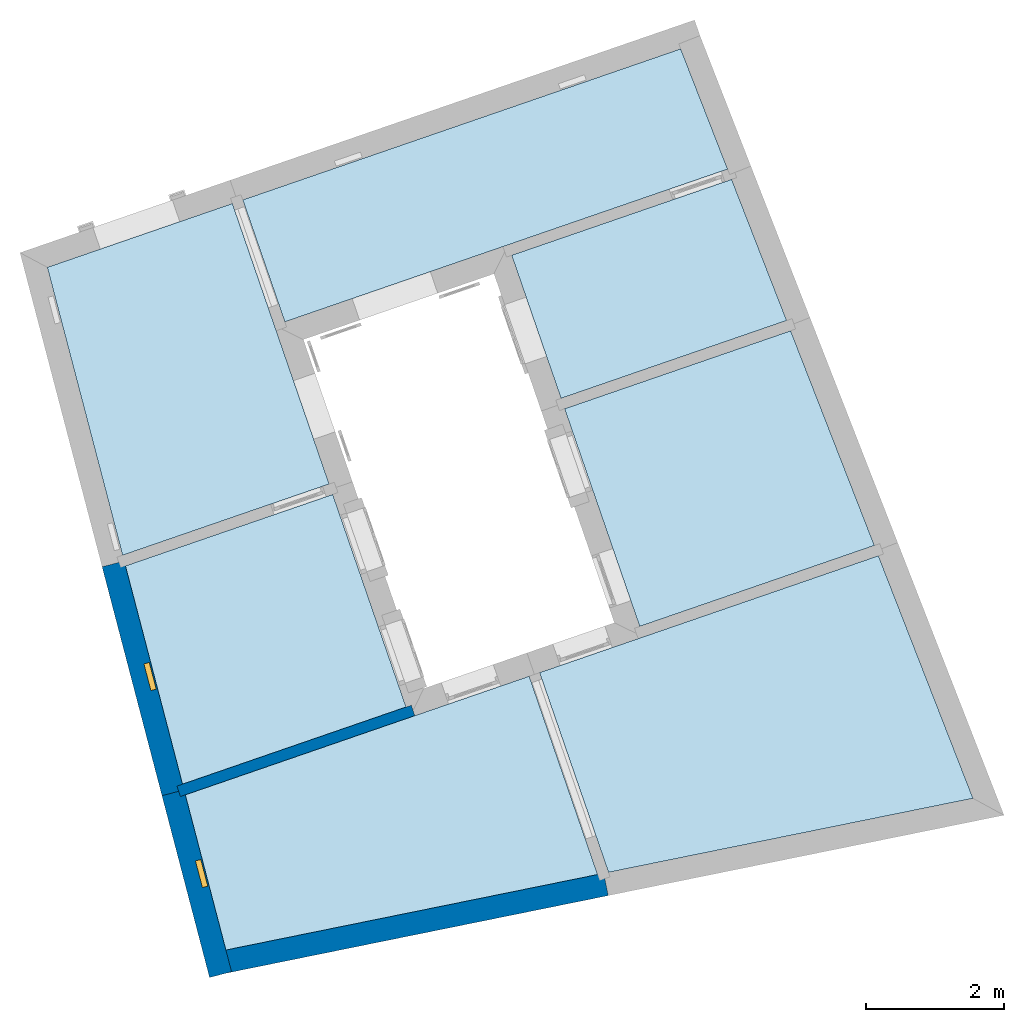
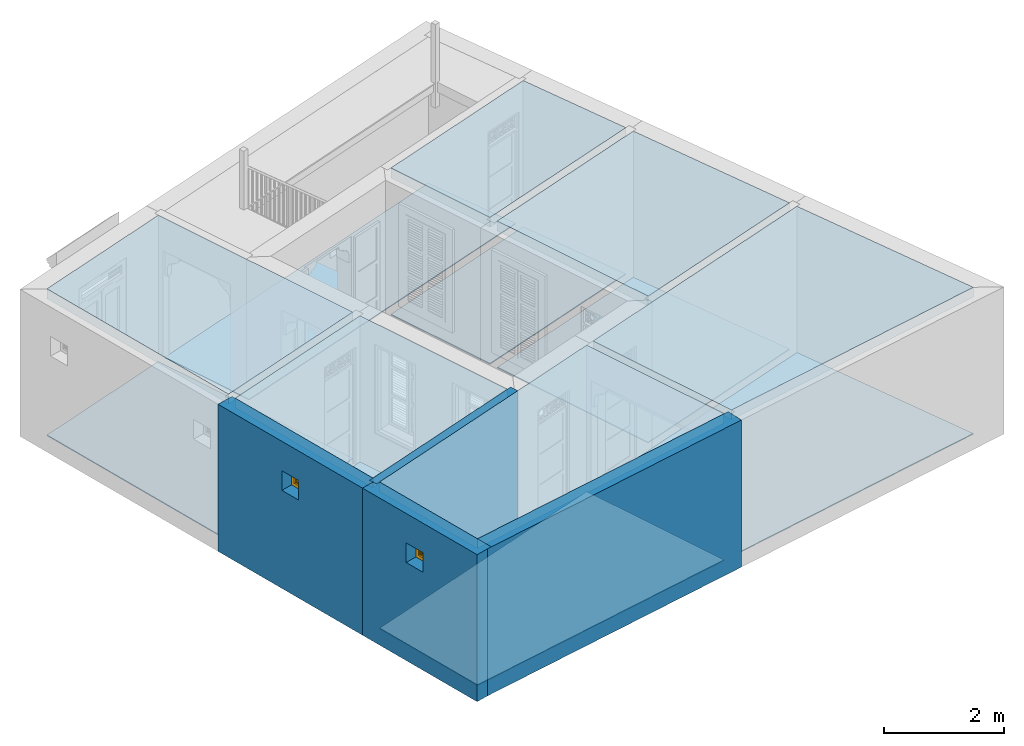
# One storey, part 1 of 16: 13 slabs, 4 walls, 2 windows, 2 openings.
"""IFC4 building model written with IfcOpenShell, lengths in metres."""

from ifc_helpers import new_model, si_unit, frame, origin, origin_with_axes, place, context, subcontext, project, spatial, polyline, outline, extrude, faceted_brep, source, transform, mapped, material, layer, layer_set, layer_usage, type_object, type_shapes, element, fill, save


model = new_model("IFC4")

# Units and contexts
model_context = context("Model", 3, world=origin_with_axes())
body_context = subcontext(model_context, "Body", "Model", "MODEL_VIEW")
ifc_project = project(units=[si_unit("PLANEANGLEUNIT", "RADIAN"), si_unit("MASSUNIT", "GRAM", prefix="KILO"), si_unit("FORCEUNIT", "NEWTON", prefix="KILO"), si_unit("LENGTHUNIT", "METRE"), si_unit("AREAUNIT", "SQUARE_METRE"), si_unit("VOLUMEUNIT", "CUBIC_METRE")], contexts=[model_context, model_context])

# Site, building, storey
site_placement = place(None, origin_with_axes())
site = spatial("IfcSite", under=ifc_project, at=site_placement, Name="Site plot-8", CompositionType="ELEMENT")
building_placement = place(None, origin_with_axes())
building = spatial("IfcBuilding", under=site, at=building_placement, Name="Building plot-8", CompositionType="ELEMENT")
storey_placement = place(None, origin_with_axes())
storey = spatial("IfcBuildingStorey", under=building, at=storey_placement, Name="plot-8 0", CompositionType="ELEMENT", Elevation=0.0)

# Slabs
slab_1_placement = place(storey_placement, frame((-1.56989651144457, 13.7553610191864, 2.8)))
element("IfcSlab", 1, at=slab_1_placement, inside=storey, Name="My Slab", ObjectType="Slab", PredefinedType="FLOOR", context=body_context, shape_type="SweptSolid", body=[
    extrude(outline(polyline([(0.0, 0.0), (-1.37202766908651, 3.5180894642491), (-6.28587327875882, 1.82295310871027), (-5.28659659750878, -1.07374090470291), (0.0, 0.0)])), origin_with_axes(), (0.0, 0.0, 1.0), 0.2),
])
slab_2_placement = place(storey_placement, frame((-1.56989651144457, 13.7553610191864, 0.0)))
element("IfcSlab", 2, at=slab_2_placement, inside=storey, Name="My Slab", ObjectType="Slab", PredefinedType="FLOOR", context=body_context, shape_type="SweptSolid", body=[
    extrude(outline(polyline([(0.0, 0.0), (-1.37202766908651, 3.5180894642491), (-6.28587327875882, 1.82295310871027), (-5.28659659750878, -1.07374090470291), (0.0, 0.0)])), origin_with_axes(), (0.0, 0.0, 1.0), 0.02),
])
slab_3_placement = place(storey_placement, frame((-7.49313553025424, 19.4056365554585, 2.8)))
element("IfcSlab", 3, at=slab_3_placement, inside=storey, Name="My Slab", ObjectType="Slab", PredefinedType="FLOOR", context=body_context, shape_type="SweptSolid", body=[
    extrude(outline(polyline([(0.0, 0.0), (1.08915847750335, -3.15724253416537), (4.4930313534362, -1.98300363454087), (3.27858671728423, 1.13101875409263), (0.0, 0.0)])), origin_with_axes(), (0.0, 0.0, 1.0), 0.2),
])
slab_4_placement = place(storey_placement, frame((-7.49313553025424, 19.4056365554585, 0.0)))
element("IfcSlab", 4, at=slab_4_placement, inside=storey, Name="My Slab", ObjectType="Slab", PredefinedType="FLOOR", context=body_context, shape_type="SweptSolid", body=[
    extrude(outline(polyline([(0.0, 0.0), (1.08915847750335, -3.15724253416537), (4.4930313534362, -1.98300363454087), (3.27858671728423, 1.13101875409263), (0.0, 0.0)])), origin_with_axes(), (0.0, 0.0, 1.0), 0.02),
])
slab_5_placement = place(storey_placement, frame((-8.00702276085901, 15.5261361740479, 2.8)))
element("IfcSlab", 5, at=slab_5_placement, inside=storey, Name="My Slab", ObjectType="Slab", PredefinedType="FLOOR", context=body_context, shape_type="SweptSolid", body=[
    extrude(outline(polyline([(0.0, 0.0), (-4.98802693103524, -1.72072679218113), (-4.39930326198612, -3.97172191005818), (0.992359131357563, -2.87664148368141), (0.0, 0.0)])), origin_with_axes(), (0.0, 0.0, 1.0), 0.2),
])
slab_6_placement = place(storey_placement, frame((-8.00702276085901, 15.5261361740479, 0.0)))
element("IfcSlab", 6, at=slab_6_placement, inside=storey, Name="My Slab", ObjectType="Slab", PredefinedType="FLOOR", context=body_context, shape_type="SweptSolid", body=[
    extrude(outline(polyline([(0.0, 0.0), (-4.98802693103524, -1.72072679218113), (-4.39930326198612, -3.97172191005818), (0.992359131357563, -2.87664148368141), (0.0, 0.0)])), origin_with_axes(), (0.0, 0.0, 1.0), 0.02),
])
slab_7_placement = place(storey_placement, frame((-9.79308074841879, 15.0792500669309, 2.8)))
element("IfcSlab", 7, at=slab_7_placement, inside=storey, Name="My Slab", ObjectType="Slab", PredefinedType="FLOOR", context=body_context, shape_type="SweptSolid", body=[
    extrude(outline(polyline([(0.0, 0.0), (-1.06373839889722, 3.08355504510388), (-4.07033336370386, 2.04636567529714), (-3.24257187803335, -1.11859466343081), (0.0, 0.0)])), origin_with_axes(), (0.0, 0.0, 1.0), 0.2),
])
slab_8_placement = place(storey_placement, frame((-9.79308074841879, 15.0792500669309, 0.0)))
element("IfcSlab", 8, at=slab_8_placement, inside=storey, Name="My Slab", ObjectType="Slab", PredefinedType="FLOOR", context=body_context, shape_type="SweptSolid", body=[
    extrude(outline(polyline([(0.0, 0.0), (-1.06373839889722, 3.08355504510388), (-4.07033336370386, 2.04636567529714), (-3.24257187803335, -1.11859466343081), (0.0, 0.0)])), origin_with_axes(), (0.0, 0.0, 1.0), 0.02),
])
slab_9_placement = place(storey_placement, frame((-12.3125491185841, 22.3826617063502, 2.8)))
element("IfcSlab", 9, at=slab_9_placement, inside=storey, Name="My Slab", ObjectType="Slab", PredefinedType="FLOOR", context=body_context, shape_type="SweptSolid", body=[
    extrude(outline(polyline([(0.0, 0.0), (-2.68365967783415, -0.925785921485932), (-1.59146792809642, -5.10179994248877), (1.4035520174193, -4.06860362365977), (0.0, 0.0)])), origin_with_axes(), (0.0, 0.0, 1.0), 0.2),
])
slab_10_placement = place(storey_placement, frame((-12.3125491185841, 22.3826617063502, 0.0)))
element("IfcSlab", 10, at=slab_10_placement, inside=storey, Name="My Slab", ObjectType="Slab", PredefinedType="FLOOR", context=body_context, shape_type="SweptSolid", body=[
    extrude(outline(polyline([(0.0, 0.0), (-2.68365967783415, -0.925785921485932), (-1.59146792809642, -5.10179994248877), (1.4035520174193, -4.06860362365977), (0.0, 0.0)])), origin_with_axes(), (0.0, 0.0, 1.0), 0.02),
])
slab_11_placement = place(storey_placement, frame((-5.12902065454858, 22.8815014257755, 0.0)))
element("IfcSlab", 11, at=slab_11_placement, inside=storey, Name="My Slab", ObjectType="Slab", PredefinedType="FLOOR", context=body_context, shape_type="SweptSolid", body=[
    extrude(outline(polyline([(0.0, 0.0), (-0.68036693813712, 1.7445652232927), (-7.03227549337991, -0.446661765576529), (-6.4220974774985, -2.2154401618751), (0.0, 0.0)])), origin_with_axes(), (0.0, 0.0, 1.0), 0.02),
])
slab_12_placement = place(storey_placement, frame((-5.07084065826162, 22.7323189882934, 2.8)))
element("IfcSlab", 12, at=slab_12_placement, inside=storey, Name="My Slab", ObjectType="Slab", PredefinedType="FLOOR", context=body_context, shape_type="SweptSolid", body=[
    extrude(outline(polyline([(0.0, 0.0), (-3.19024879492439, -1.10054469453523), (-2.47447282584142, -3.1754294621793), (0.798111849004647, -2.0464812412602), (0.0, 0.0)])), origin_with_axes(), (0.0, 0.0, 1.0), 0.2),
])
slab_13_placement = place(storey_placement, frame((-5.07084065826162, 22.7323189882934, 0.0)))
element("IfcSlab", 13, at=slab_13_placement, inside=storey, Name="My Slab", ObjectType="Slab", PredefinedType="FLOOR", context=body_context, shape_type="SweptSolid", body=[
    extrude(outline(polyline([(0.0, 0.0), (-3.19024879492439, -1.10054469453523), (-2.47447282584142, -3.1754294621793), (0.798111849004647, -2.0464812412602), (0.0, 0.0)])), origin_with_axes(), (0.0, 0.0, 1.0), 0.02),
])

# Wall, opening, window
ifc_material_1 = material(Name="Masonry")
ifc_layer_1 = layer(ifc_material_1, 0.33, ventilated=False)
ifc_layer_set_1 = layer_set([ifc_layer_1], Name="exterior_0.08_0.25")
ifc_layer_usage_1 = layer_usage(ifc_layer_set_1, "AXIS2", "POSITIVE", -0.25)
wall_type_1 = type_object("IfcWallType", Name="exterior_0.08_0.25", PredefinedType="SOLIDWALL", material=ifc_layer_set_1)
wall_1_placement = place(storey_placement, frame((-13.9595631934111, 17.1770734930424, 0.0), z_axis=(0.0, 0.0, 1.0), x_axis=(0.253028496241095, -0.96745882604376, 0.0)))
wall_1 = element("IfcWall", 14, at=wall_1_placement, inside=storey, type_object=wall_type_1, material=ifc_layer_usage_1, Name="exterior", context=body_context, shape_type="SweptSolid", body=[
    extrude(outline(polyline([(2.01218181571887e-15, 0.0799999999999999), (-9.37179766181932e-15, -0.249999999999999), (3.43188389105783, -0.25), (3.43188389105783, 0.0800000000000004), (2.01218181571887e-15, 0.0799999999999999)])), origin_with_axes(), (0.0, 0.0, 1.0), 3.0),
])
opening_1_placement = place(wall_1_placement, frame((1.51594194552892, 0.0, 2.0)))
opening_1 = element("IfcOpeningElement", 15, at=opening_1_placement, cuts=wall_1, Name="My Opening", ObjectType="Opening", context=body_context, shape_type="SweptSolid", body=[
    extrude(outline(polyline([(0.0, -0.27), (0.400000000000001, -0.269999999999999), (0.4, 1.1), (-4.44089209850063e-16, 1.1), (0.0, -0.27)])), origin_with_axes(), (0.0, 0.0, 1.0), 0.4),
])
window_type = type_object("IfcWindowType", Name="barred_window", PartitioningType="DOUBLE_PANEL_HORIZONTAL", PredefinedType="NOTDEFINED")
shared_shape = source(origin(), body_context, "Body", "Brep", [
    faceted_brep([(0.4, 0.25, 0.4), (0.0, 0.25, 0.4), (0.06, 0.25, 0.34), (0.34, 0.25, 0.34), (0.06, 0.33, 0.34), (0.34, 0.33, 0.34), (0.34, 0.25, 0.06), (0.4, 0.25, 0.0), (0.4, 0.33, 0.4), (0.0, 0.33, 0.4), (0.0, 0.25, 0.0), (0.06, 0.25, 0.06), (0.06, 0.33, 0.06), (0.34, 0.33, 0.06), (0.4, 0.33, 0.0), (0.0, 0.33, 0.0), (0.136152, 0.28, 0.08), (0.08, 0.28, 0.08), (0.06, 0.28, 0.06), (0.136152, 0.28, 0.06), (0.136152, 0.29, 0.08), (0.08, 0.29, 0.08), (0.06, 0.28, 0.136152), (0.08, 0.28, 0.136152), (0.06, 0.29, 0.06), (0.136152, 0.29, 0.06), (0.170294, 0.28, 0.08), (0.170294, 0.28, 0.06), (0.136152, 0.28, 0.136152), (0.136152, 0.29, 0.136152), (0.08, 0.29, 0.136152), (0.06, 0.29, 0.136152), (0.08, 0.28, 0.170294), (0.06, 0.28, 0.170294), (0.170294, 0.29, 0.06), (0.229706, 0.28, 0.08), (0.229706, 0.28, 0.06), (0.156152, 0.28, 0.094142), (0.156152, 0.28, 0.136152), (0.185858, 0.28, 0.123848), (0.185858, 0.29, 0.123848), (0.156152, 0.29, 0.094142), (0.156152, 0.29, 0.136152), (0.229706, 0.29, 0.08), (0.170294, 0.29, 0.08), (0.2, 0.28, 0.109706), (0.2, 0.29, 0.109706), (0.06, 0.29, 0.170294), (0.094142, 0.28, 0.156152), (0.08, 0.28, 0.229706), (0.06, 0.28, 0.229706), (0.229706, 0.29, 0.06), (0.263848, 0.28, 0.08), (0.263848, 0.28, 0.06), (0.156152, 0.28, 0.156152), (0.136152, 0.28, 0.156152), (0.173553, 0.28, 0.136152), (0.173553, 0.29, 0.136152), (0.156152, 0.29, 0.156152), (0.136152, 0.29, 0.156152), (0.094142, 0.29, 0.156152), (0.08, 0.29, 0.170294), (0.06, 0.29, 0.229706), (0.123848, 0.28, 0.185858), (0.109706, 0.28, 0.2), (0.08, 0.29, 0.229706), (0.08, 0.28, 0.263848), (0.06, 0.28, 0.263848), (0.263848, 0.29, 0.06), (0.2, 0.28, 0.13799), (0.214142, 0.28, 0.123848), (0.34, 0.28, 0.06), (0.32, 0.28, 0.08), (0.181838, 0.28, 0.156152), (0.136152, 0.28, 0.173553), (0.156152, 0.28, 0.181838), (0.181838, 0.29, 0.156152), (0.2, 0.29, 0.13799), (0.214142, 0.29, 0.123848), (0.136152, 0.29, 0.173553), (0.156152, 0.29, 0.181838), (0.243848, 0.28, 0.094142), (0.243848, 0.29, 0.094142), (0.263848, 0.28, 0.136152), (0.263848, 0.29, 0.08), (0.263848, 0.29, 0.136152), (0.32, 0.29, 0.08), (0.243848, 0.28, 0.136152), (0.243848, 0.29, 0.136152), (0.06, 0.29, 0.263848), (0.123848, 0.29, 0.185858), (0.13799, 0.28, 0.2), (0.123848, 0.28, 0.214142), (0.109706, 0.29, 0.2), (0.094142, 0.28, 0.243848), (0.08, 0.28, 0.32), (0.06, 0.28, 0.34), (0.34, 0.29, 0.06), (0.218162, 0.28, 0.156152), (0.226447, 0.28, 0.136152), (0.34, 0.28, 0.229706), (0.32, 0.28, 0.229706), (0.32, 0.28, 0.170294), (0.32, 0.28, 0.136152), (0.218162, 0.29, 0.156152), (0.226447, 0.29, 0.136152), (0.13799, 0.29, 0.2), (0.32, 0.29, 0.136152), (0.08, 0.29, 0.263848), (0.06, 0.29, 0.34), (0.136152, 0.28, 0.226447), (0.156152, 0.28, 0.218162), (0.094142, 0.29, 0.243848), (0.123848, 0.29, 0.214142), (0.136152, 0.28, 0.243848), (0.136152, 0.28, 0.263848), (0.08, 0.29, 0.32), (0.136152, 0.28, 0.34), (0.136152, 0.28, 0.32), (0.34, 0.29, 0.229706), (0.243848, 0.28, 0.156152), (0.263848, 0.28, 0.156152), (0.34, 0.28, 0.263848), (0.32, 0.28, 0.263848), (0.32, 0.29, 0.229706), (0.32, 0.29, 0.170294), (0.290294, 0.28, 0.2), (0.276152, 0.28, 0.185858), (0.305858, 0.28, 0.156152), (0.243848, 0.29, 0.156152), (0.263848, 0.29, 0.156152), (0.305858, 0.29, 0.156152), (0.276152, 0.29, 0.185858), (0.290294, 0.29, 0.2), (0.136152, 0.29, 0.34), (0.136152, 0.29, 0.226447), (0.156152, 0.29, 0.218162), (0.156152, 0.28, 0.243848), (0.136152, 0.29, 0.243848), (0.156152, 0.28, 0.263848), (0.136152, 0.29, 0.263848), (0.136152, 0.29, 0.32), (0.170294, 0.28, 0.32), (0.170294, 0.28, 0.34), (0.34, 0.29, 0.263848), (0.243848, 0.28, 0.181838), (0.263848, 0.28, 0.173553), (0.34, 0.28, 0.34), (0.32, 0.28, 0.32), (0.305858, 0.28, 0.243848), (0.276152, 0.28, 0.214142), (0.26201, 0.28, 0.2), (0.243848, 0.29, 0.181838), (0.263848, 0.29, 0.173553), (0.26201, 0.29, 0.2), (0.276152, 0.29, 0.214142), (0.32, 0.29, 0.263848), (0.170294, 0.29, 0.34), (0.156152, 0.29, 0.243848), (0.173553, 0.28, 0.263848), (0.181838, 0.28, 0.243848), (0.156152, 0.28, 0.305858), (0.229706, 0.28, 0.32), (0.229706, 0.28, 0.34), (0.34, 0.29, 0.34), (0.263848, 0.28, 0.34), (0.263848, 0.28, 0.32), (0.32, 0.29, 0.32), (0.263848, 0.28, 0.263848), (0.263848, 0.28, 0.243848), (0.305858, 0.29, 0.243848), (0.263848, 0.28, 0.226447), (0.243848, 0.28, 0.218162), (0.243848, 0.29, 0.218162), (0.263848, 0.29, 0.226447), (0.156152, 0.29, 0.263848), (0.170294, 0.29, 0.32), (0.229706, 0.29, 0.34), (0.181838, 0.29, 0.243848), (0.173553, 0.29, 0.263848), (0.185858, 0.28, 0.276152), (0.2, 0.28, 0.26201), (0.156152, 0.29, 0.305858), (0.229706, 0.29, 0.32), (0.263848, 0.29, 0.34), (0.263848, 0.29, 0.32), (0.263848, 0.29, 0.263848), (0.243848, 0.28, 0.243848), (0.243848, 0.28, 0.263848), (0.263848, 0.29, 0.243848), (0.243848, 0.29, 0.243848), (0.2, 0.29, 0.26201), (0.185858, 0.29, 0.276152), (0.214142, 0.28, 0.276152), (0.218162, 0.28, 0.243848), (0.226447, 0.28, 0.263848), (0.243848, 0.28, 0.305858), (0.2, 0.28, 0.290294), (0.2, 0.29, 0.290294), (0.243848, 0.29, 0.263848), (0.218162, 0.29, 0.243848), (0.214142, 0.29, 0.276152), (0.226447, 0.29, 0.263848), (0.243848, 0.29, 0.305858)], [[[0, 1, 2, 3]], [[3, 2, 4, 5]], [[3, 6, 7, 0]], [[1, 0, 8, 9]], [[1, 10, 11, 2]], [[2, 11, 12, 4]], [[9, 8, 5, 4]], [[6, 3, 5, 13]], [[6, 11, 10, 7]], [[0, 7, 14, 8]], [[10, 1, 9, 15]], [[11, 6, 13, 12]], [[4, 12, 15, 9]], [[8, 14, 13, 5]], [[7, 10, 15, 14]], [[12, 13, 14, 15]], [[16, 17, 18, 19]], [[17, 16, 20, 21]], [[22, 18, 17, 23]], [[19, 18, 24, 25]], [[26, 16, 19, 27]], [[16, 28, 29, 20]], [[21, 20, 25, 24]], [[23, 17, 21, 30]], [[18, 22, 31, 24]], [[23, 32, 33, 22]], [[27, 19, 25, 34]], [[35, 26, 27, 36]], [[28, 16, 37, 38]], [[37, 39, 40, 41]], [[38, 37, 41, 42]], [[20, 29, 42, 41]], [[26, 35, 43, 44]], [[45, 26, 44, 46]], [[20, 44, 34, 25]], [[28, 23, 30, 29]], [[24, 31, 30, 21]], [[22, 33, 47, 31]], [[48, 32, 23]], [[32, 49, 50, 33]], [[36, 27, 34, 51]], [[39, 37, 26, 45]], [[52, 35, 36, 53]], [[38, 54, 55, 28]], [[39, 56, 57, 40]], [[41, 40, 46, 44]], [[56, 38, 42, 57]], [[58, 42, 29, 59]], [[35, 45, 46, 43]], [[44, 43, 51, 34]], [[23, 28, 55, 48]], [[29, 30, 60, 59]], [[61, 30, 31, 47]], [[33, 50, 62, 47]], [[48, 63, 64, 32]], [[49, 32, 61, 65]], [[49, 66, 67, 50]], [[53, 36, 51, 68]], [[69, 39, 45, 70]], [[53, 71, 72, 52]], [[73, 54, 38, 56]], [[74, 55, 54, 75]], [[56, 39, 69, 73]], [[40, 57, 76, 77]], [[40, 77, 78, 46]], [[58, 76, 57, 42]], [[59, 79, 80, 58]], [[45, 35, 81, 70]], [[43, 46, 78, 82]], [[83, 52, 84, 85]], [[82, 84, 43]], [[52, 72, 86, 84]], [[43, 84, 68, 51]], [[44, 20, 41]], [[70, 81, 82, 78]], [[81, 87, 88, 82]], [[48, 55, 59, 60]], [[61, 60, 30]], [[65, 61, 47, 62]], [[50, 67, 89, 62]], [[63, 48, 60, 90]], [[63, 91, 92, 64]], [[32, 64, 93, 61]], [[64, 49, 65, 93]], [[94, 66, 49]], [[66, 95, 96, 67]], [[71, 53, 68, 97]], [[98, 69, 70, 99]], [[81, 52, 83, 87]], [[72, 71, 100]], [[100, 101, 102]], [[103, 72, 100]], [[100, 102, 103]], [[54, 73, 76, 58]], [[55, 74, 79, 59]], [[75, 54, 58, 80]], [[63, 74, 75, 91]], [[73, 69, 77, 76]], [[77, 104, 105, 78]], [[79, 90, 106, 80]], [[84, 82, 88, 85]], [[103, 83, 85, 107]], [[72, 103, 107, 86]], [[97, 68, 84, 86]], [[99, 70, 78, 105]], [[87, 99, 105, 88]], [[90, 60, 61, 93]], [[108, 65, 62, 89]], [[67, 96, 109, 89]], [[74, 63, 90, 79]], [[110, 92, 91, 111]], [[49, 64, 92, 94]], [[93, 65, 112, 113]], [[94, 114, 115, 66]], [[95, 66, 108, 116]], [[117, 96, 95, 118]], [[100, 71, 97, 119]], [[69, 98, 104, 77]], [[99, 87, 120, 98]], [[87, 83, 121, 120]], [[101, 100, 122, 123]], [[102, 101, 124, 125]], [[121, 83, 103]], [[103, 102, 126]], [[126, 127, 128]], [[128, 121, 103]], [[103, 126, 128]], [[91, 75, 80, 106]], [[88, 105, 104, 129]], [[106, 90, 93, 113]], [[85, 88, 129, 130]], [[107, 85, 130]], [[131, 132, 133]], [[107, 130, 131]], [[133, 125, 107]], [[107, 131, 133]], [[124, 119, 97]], [[97, 86, 107]], [[107, 125, 124]], [[97, 107, 124]], [[108, 112, 65]], [[116, 108, 89, 109]], [[96, 117, 134, 109]], [[92, 110, 135, 113]], [[111, 91, 106, 136]], [[114, 110, 111, 137]], [[94, 92, 113, 112]], [[114, 94, 112, 138]], [[114, 137, 139, 115]], [[66, 115, 140, 108]], [[118, 95, 116, 141]], [[118, 142, 143, 117]], [[122, 100, 119, 144]], [[98, 120, 129, 104]], [[145, 120, 121, 146]], [[122, 147, 148, 123]], [[123, 149, 101]], [[101, 126, 133, 124]], [[126, 102, 125, 133]], [[127, 126, 150, 151]], [[128, 127, 132, 131]], [[121, 128, 131, 130]], [[113, 135, 136, 106]], [[129, 152, 153, 130]], [[133, 132, 154, 155]], [[119, 124, 156, 144]], [[138, 112, 108, 140]], [[109, 134, 141, 116]], [[117, 143, 157, 134]], [[110, 114, 138, 135]], [[137, 111, 136, 158]], [[159, 139, 137, 160]], [[118, 115, 139, 161]], [[115, 118, 141, 140]], [[161, 142, 118]], [[162, 163, 143, 142]], [[147, 122, 144, 164]], [[120, 145, 152, 129]], [[146, 121, 130, 153]], [[146, 127, 151, 145]], [[147, 165, 166, 148]], [[123, 148, 167, 156]], [[149, 123, 168, 169]], [[149, 150, 126, 101]], [[155, 170, 124, 133]], [[151, 150, 171, 172]], [[127, 146, 153, 132]], [[135, 138, 158, 136]], [[132, 153, 152, 154]], [[155, 154, 173, 174]], [[170, 156, 124]], [[164, 144, 156, 167]], [[158, 138, 140, 175]], [[176, 141, 134, 157]], [[143, 163, 177, 157]], [[160, 137, 158, 178]], [[139, 159, 179, 175]], [[180, 159, 160, 181]], [[161, 139, 175, 182]], [[140, 141, 182, 175]], [[166, 165, 163, 162]], [[162, 142, 176, 183]], [[165, 147, 164, 184]], [[145, 151, 154, 152]], [[148, 166, 185, 167]], [[156, 186, 168, 123]], [[187, 169, 168, 188]], [[149, 169, 189, 170]], [[150, 149, 170, 155]], [[171, 150, 155, 174]], [[171, 169, 187, 172]], [[151, 172, 173, 154]], [[189, 174, 173, 190]], [[156, 170, 189, 186]], [[184, 164, 167, 185]], [[175, 179, 178, 158]], [[176, 182, 141]], [[177, 183, 176, 157]], [[163, 165, 184, 177]], [[181, 160, 178, 191]], [[159, 180, 192, 179]], [[180, 161, 182, 192]], [[193, 181, 194, 195]], [[196, 162, 197, 193]], [[180, 197, 142, 161]], [[197, 180, 181, 193]], [[142, 197, 198, 176]], [[162, 196, 166]], [[35, 52, 81]], [[197, 162, 183, 198]], [[185, 166, 168, 186]], [[196, 188, 168, 166]], [[187, 188, 195, 194]], [[169, 171, 174, 189]], [[172, 187, 190, 173]], [[189, 190, 199, 186]], [[184, 185, 183, 177]], [[179, 192, 191, 178]], [[176, 198, 192, 182]], [[194, 181, 191, 200]], [[191, 192, 198, 201]], [[26, 37, 16]], [[193, 195, 202, 201]], [[196, 193, 201, 203]], [[191, 201, 202, 200]], [[183, 203, 201, 198]], [[188, 196, 203, 199]], [[203, 183, 185]], [[199, 203, 185, 186]], [[195, 188, 199, 202]], [[187, 194, 200, 190]], [[199, 190, 200, 202]]]),
])
type_shapes(window_type, [shared_shape])
window_1_placement = place(storey_placement, frame((-13.8372005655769, 15.6421443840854, 2.0), z_axis=(0.0, 0.0, 1.0), x_axis=(0.101211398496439, -0.386983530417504, 0.0)))
window_1 = element("IfcWindow", 16, at=window_1_placement, inside=storey, type_object=window_type, Name="toilet street window", OverallHeight=0.4, OverallWidth=0.4, context=body_context, shape_type="MappedRepresentation", body=[
    mapped(shared_shape, transform((0.0, 0.0, 0.0), scale=1.0)),
])
fill(opening_1, window_1)

wall_2_placement = place(storey_placement, frame((-13.0911987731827, 13.8568671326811, 0.0), z_axis=(0.0, 0.0, 1.0), x_axis=(0.253028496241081, -0.967458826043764, 0.0)))
wall_2 = element("IfcWall", 17, at=wall_2_placement, inside=storey, type_object=wall_type_1, material=ifc_layer_usage_1, Name="exterior", context=body_context, shape_type="SweptSolid", body=[
    extrude(outline(polyline([(-8.1222555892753e-16, 0.0800000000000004), (3.06270021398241e-15, -0.25), (2.72650487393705, -0.249999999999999), (2.72650487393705, 0.0800000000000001), (-8.1222555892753e-16, 0.0800000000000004)])), origin_with_axes(), (0.0, 0.0, 1.0), 3.0),
])
opening_2_placement = place(wall_2_placement, frame((1.03825243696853, 0.0, 2.0)))
opening_2 = element("IfcOpeningElement", 18, at=opening_2_placement, cuts=wall_2, Name="My Opening", ObjectType="Opening", context=body_context, shape_type="SweptSolid", body=[
    extrude(outline(polyline([(0.0, -0.27), (0.399999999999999, -0.27), (0.399999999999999, 1.1), (6.66133814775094e-16, 1.1), (0.0, -0.27)])), origin_with_axes(), (0.0, 0.0, 1.0), 0.4),
])
window_2_placement = place(storey_placement, frame((-13.0897052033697, 12.7840829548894, 2.0), z_axis=(0.0, 0.0, 1.0), x_axis=(0.101211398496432, -0.386983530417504, 0.0)))
window_2 = element("IfcWindow", 19, at=window_2_placement, inside=storey, type_object=window_type, Name="kitchen street window", OverallHeight=0.4, OverallWidth=0.4, context=body_context, shape_type="MappedRepresentation", body=[
    mapped(shared_shape, transform((0.0, 0.0, 0.0), scale=1.0)),
])
fill(opening_2, window_2)

# Walls
ifc_material_2 = material(Name="Masonry")
ifc_layer_2 = layer(ifc_material_2, 0.33, ventilated=False)
ifc_layer_set_2 = layer_set([ifc_layer_2], Name="party_0.08_0.25")
ifc_layer_usage_2 = layer_usage(ifc_layer_set_2, "AXIS2", "POSITIVE", -0.25)
wall_type_2 = type_object("IfcWallType", Name="party_0.08_0.25", PredefinedType="SOLIDWALL", material=ifc_layer_set_2)
wall_3_placement = place(storey_placement, frame((-12.4645724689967, 11.4609506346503, 0.0), z_axis=(0.0, 0.0, 1.0), x_axis=(0.979990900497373, 0.199042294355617, 0.0)))
element("IfcWall", 20, at=wall_3_placement, inside=storey, type_object=wall_type_2, material=ifc_layer_usage_2, Name="party", context=body_context, shape_type="SweptSolid", body=[
    extrude(outline(polyline([(2.89115681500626e-16, 0.0799999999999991), (-5.95314578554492e-16, -0.249999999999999), (5.6687376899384, -0.249999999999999), (5.6687376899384, 0.0799999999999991), (2.89115681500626e-16, 0.0799999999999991)])), origin_with_axes(), (0.0, 0.0, 1.0), 3.0),
])
ifc_material_3 = material(Name="Masonry")
ifc_layer_3 = layer(ifc_material_3, 0.16, ventilated=False)
ifc_layer_set_3 = layer_set([ifc_layer_3], Name="interior_0.08_0.08")
ifc_layer_usage_3 = layer_usage(ifc_layer_set_3, "AXIS2", "POSITIVE", -0.08)
wall_type_3 = type_object("IfcWallType", Name="interior_0.08_0.08", PredefinedType="SOLIDWALL", material=ifc_layer_set_3)
wall_4_placement = place(storey_placement, frame((-9.69136528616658, 15.0297125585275, 0.0), z_axis=(0.0, 0.0, 1.0), x_axis=(-0.945331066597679, -0.326112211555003, 0.0)))
element("IfcWall", 21, at=wall_4_placement, inside=storey, type_object=wall_type_3, material=ifc_layer_usage_3, Name="interior", context=body_context, shape_type="SweptSolid", body=[
    extrude(outline(polyline([(-8.57500351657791e-17, 0.0800000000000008), (5.81892923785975e-17, -0.0800000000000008), (3.59644743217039, -0.0800000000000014), (3.59644743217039, 0.0799999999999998), (-8.57500351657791e-17, 0.0800000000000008)])), origin_with_axes(), (0.0, 0.0, 1.0), 3.0),
])

save(model, "model.ifc")
